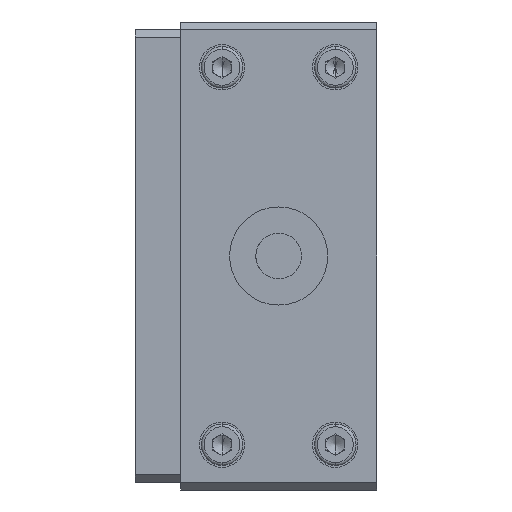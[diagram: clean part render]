
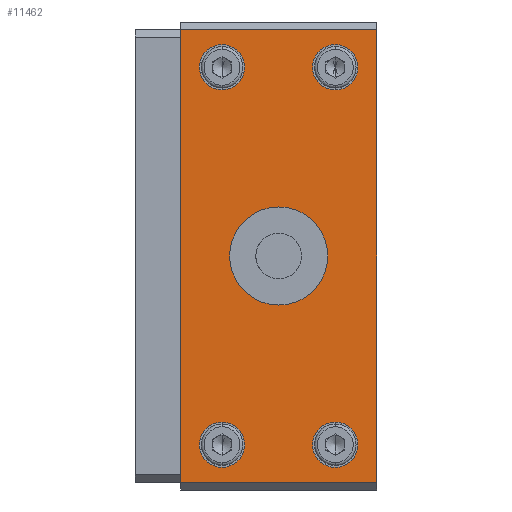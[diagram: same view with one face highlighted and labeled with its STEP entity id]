
A CAD part, left-side view. The second image highlights one B-rep face of the part: STEP entity #11462.
In plain terms, the highlighted planar face has unit normal (-1, 0, 0).
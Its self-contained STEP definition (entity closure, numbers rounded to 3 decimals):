
#58 = VERTEX_POINT ( 'NONE', #12912 ) ;
#627 = DIRECTION ( 'NONE',  ( 0., 0., 1. ) ) ;
#746 = LINE ( 'NONE', #11611, #24152 ) ;
#975 = DIRECTION ( 'NONE',  ( 0., 0., -1. ) ) ;
#1039 = CARTESIAN_POINT ( 'NONE',  ( -30.046, 248.764, 143.056 ) ) ;
#1368 = CARTESIAN_POINT ( 'NONE',  ( -30.046, 233.764, 143.056 ) ) ;
#1476 = VERTEX_POINT ( 'NONE', #26884 ) ;
#1626 = ORIENTED_EDGE ( 'NONE', *, *, #8819, .F. ) ;
#1714 = CARTESIAN_POINT ( 'NONE',  ( -30.046, 248.764, 187.056 ) ) ;
#2244 = AXIS2_PLACEMENT_3D ( 'NONE', #22825, #25025, #20923 ) ;
#2533 = DIRECTION ( 'NONE',  ( 1., 0., 0. ) ) ;
#2681 = ORIENTED_EDGE ( 'NONE', *, *, #8696, .F. ) ;
#2795 = DIRECTION ( 'NONE',  ( 0., 0., -1. ) ) ;
#2966 = CARTESIAN_POINT ( 'NONE',  ( -30.046, 248.764, 140.056 ) ) ;
#3433 = VERTEX_POINT ( 'NONE', #6625 ) ;
#3525 = CARTESIAN_POINT ( 'NONE',  ( -30.046, 248.764, 190.056 ) ) ;
#3682 = VERTEX_POINT ( 'NONE', #1039 ) ;
#3839 = CIRCLE ( 'NONE', #7591, 3. ) ;
#3905 = ORIENTED_EDGE ( 'NONE', *, *, #24263, .F. ) ;
#4212 = CARTESIAN_POINT ( 'NONE',  ( -30.046, 233.764, 140.056 ) ) ;
#4600 = AXIS2_PLACEMENT_3D ( 'NONE', #25402, #2533, #16172 ) ;
#4719 = VERTEX_POINT ( 'NONE', #5147 ) ;
#5147 = CARTESIAN_POINT ( 'NONE',  ( -30.046, 228.264, 195.056 ) ) ;
#5602 = ORIENTED_EDGE ( 'NONE', *, *, #22214, .F. ) ;
#5697 = DIRECTION ( 'NONE',  ( 0., 0., 1. ) ) ;
#5909 = AXIS2_PLACEMENT_3D ( 'NONE', #13420, #9059, #15482 ) ;
#6143 = CIRCLE ( 'NONE', #12691, 6.5 ) ;
#6211 = ORIENTED_EDGE ( 'NONE', *, *, #14283, .T. ) ;
#6625 = CARTESIAN_POINT ( 'NONE',  ( -30.046, 241.264, 171.556 ) ) ;
#6830 = VERTEX_POINT ( 'NONE', #7752 ) ;
#6941 = FACE_BOUND ( 'NONE', #15379, .T. ) ;
#7232 = EDGE_LOOP ( 'NONE', ( #6211, #13967 ) ) ;
#7401 = CIRCLE ( 'NONE', #2244, 3. ) ;
#7417 = VECTOR ( 'NONE', #16309, 1000. ) ;
#7591 = AXIS2_PLACEMENT_3D ( 'NONE', #19283, #21771, #14424 ) ;
#7752 = CARTESIAN_POINT ( 'NONE',  ( -30.046, 248.764, 193.056 ) ) ;
#7760 = CARTESIAN_POINT ( 'NONE',  ( -30.046, 248.764, 140.056 ) ) ;
#8132 = CARTESIAN_POINT ( 'NONE',  ( -30.046, 228.264, 135.056 ) ) ;
#8174 = DIRECTION ( 'NONE',  ( 0., -1., 0. ) ) ;
#8490 = CARTESIAN_POINT ( 'NONE',  ( -30.046, 254.264, 195.056 ) ) ;
#8696 = EDGE_CURVE ( 'NONE', #1476, #26679, #20360, .T. ) ;
#8819 = EDGE_CURVE ( 'NONE', #20770, #58, #7401, .T. ) ;
#8866 = EDGE_CURVE ( 'NONE', #3433, #9330, #17278, .T. ) ;
#9059 = DIRECTION ( 'NONE',  ( -1., 0., 0. ) ) ;
#9215 = ORIENTED_EDGE ( 'NONE', *, *, #28760, .F. ) ;
#9292 = VECTOR ( 'NONE', #22256, 1000. ) ;
#9320 = CARTESIAN_POINT ( 'NONE',  ( -30.046, 241.264, 158.556 ) ) ;
#9330 = VERTEX_POINT ( 'NONE', #9320 ) ;
#9588 = LINE ( 'NONE', #27455, #7417 ) ;
#9646 = CARTESIAN_POINT ( 'NONE',  ( -30.046, 241.264, 165.056 ) ) ;
#9765 = EDGE_CURVE ( 'NONE', #4719, #26268, #746, .T. ) ;
#9787 = DIRECTION ( 'NONE',  ( 1., 0., 0. ) ) ;
#10134 = DIRECTION ( 'NONE',  ( 1., 0., 0. ) ) ;
#10475 = ORIENTED_EDGE ( 'NONE', *, *, #9765, .F. ) ;
#11013 = EDGE_CURVE ( 'NONE', #4719, #26679, #9588, .T. ) ;
#11314 = CIRCLE ( 'NONE', #11769, 3. ) ;
#11462 = ADVANCED_FACE ( 'NONE', ( #14255, #6941, #18667, #27172, #22905, #15878 ), #24970, .F. ) ;
#11611 = CARTESIAN_POINT ( 'NONE',  ( -30.046, 228.264, 196.056 ) ) ;
#11769 = AXIS2_PLACEMENT_3D ( 'NONE', #3525, #16882, #12323 ) ;
#11924 = DIRECTION ( 'NONE',  ( -1., 0., 0. ) ) ;
#11953 = ORIENTED_EDGE ( 'NONE', *, *, #18270, .F. ) ;
#12064 = EDGE_CURVE ( 'NONE', #58, #20770, #14805, .T. ) ;
#12289 = DIRECTION ( 'NONE',  ( -1., 0., 0. ) ) ;
#12323 = DIRECTION ( 'NONE',  ( 0., 0., 1. ) ) ;
#12691 = AXIS2_PLACEMENT_3D ( 'NONE', #14670, #10134, #18941 ) ;
#12795 = CIRCLE ( 'NONE', #20299, 3. ) ;
#12871 = DIRECTION ( 'NONE',  ( -1., 0., 0. ) ) ;
#12912 = CARTESIAN_POINT ( 'NONE',  ( -30.046, 233.764, 193.056 ) ) ;
#13104 = EDGE_CURVE ( 'NONE', #6830, #21134, #11314, .T. ) ;
#13420 = CARTESIAN_POINT ( 'NONE',  ( -30.046, 233.764, 190.056 ) ) ;
#13967 = ORIENTED_EDGE ( 'NONE', *, *, #8866, .T. ) ;
#14202 = ORIENTED_EDGE ( 'NONE', *, *, #13104, .F. ) ;
#14255 = FACE_BOUND ( 'NONE', #26613, .T. ) ;
#14262 = EDGE_LOOP ( 'NONE', ( #10475, #17824, #2681, #28222 ) ) ;
#14283 = EDGE_CURVE ( 'NONE', #9330, #3433, #6143, .T. ) ;
#14424 = DIRECTION ( 'NONE',  ( 0., 0., 1. ) ) ;
#14670 = CARTESIAN_POINT ( 'NONE',  ( -30.046, 241.264, 165.056 ) ) ;
#14805 = CIRCLE ( 'NONE', #5909, 3. ) ;
#15379 = EDGE_LOOP ( 'NONE', ( #11953, #28812 ) ) ;
#15482 = DIRECTION ( 'NONE',  ( 0., 0., 1. ) ) ;
#15600 = ORIENTED_EDGE ( 'NONE', *, *, #12064, .F. ) ;
#15658 = CIRCLE ( 'NONE', #23144, 3. ) ;
#15878 = FACE_OUTER_BOUND ( 'NONE', #14262, .T. ) ;
#16172 = DIRECTION ( 'NONE',  ( 0., 0., -1. ) ) ;
#16309 = DIRECTION ( 'NONE',  ( 0., 1., 0. ) ) ;
#16850 = CIRCLE ( 'NONE', #22908, 3. ) ;
#16882 = DIRECTION ( 'NONE',  ( -1., 0., 0. ) ) ;
#17063 = AXIS2_PLACEMENT_3D ( 'NONE', #7760, #12289, #5697 ) ;
#17278 = CIRCLE ( 'NONE', #23343, 6.5 ) ;
#17289 = DIRECTION ( 'NONE',  ( 0., 0., 1. ) ) ;
#17398 = LINE ( 'NONE', #21647, #18476 ) ;
#17824 = ORIENTED_EDGE ( 'NONE', *, *, #11013, .T. ) ;
#18270 = EDGE_CURVE ( 'NONE', #27539, #19166, #15658, .T. ) ;
#18476 = VECTOR ( 'NONE', #8174, 1000. ) ;
#18501 = EDGE_CURVE ( 'NONE', #1476, #26268, #17398, .T. ) ;
#18667 = FACE_BOUND ( 'NONE', #25483, .T. ) ;
#18931 = CARTESIAN_POINT ( 'NONE',  ( -30.046, 233.764, 140.056 ) ) ;
#18941 = DIRECTION ( 'NONE',  ( 0., 0., -1. ) ) ;
#19166 = VERTEX_POINT ( 'NONE', #27897 ) ;
#19283 = CARTESIAN_POINT ( 'NONE',  ( -30.046, 248.764, 190.056 ) ) ;
#19502 = DIRECTION ( 'NONE',  ( 0., 0., 1. ) ) ;
#20299 = AXIS2_PLACEMENT_3D ( 'NONE', #2966, #11924, #627 ) ;
#20360 = LINE ( 'NONE', #24450, #9292 ) ;
#20770 = VERTEX_POINT ( 'NONE', #28587 ) ;
#20923 = DIRECTION ( 'NONE',  ( 0., 0., 1. ) ) ;
#21134 = VERTEX_POINT ( 'NONE', #1714 ) ;
#21417 = CARTESIAN_POINT ( 'NONE',  ( -30.046, 248.764, 137.056 ) ) ;
#21647 = CARTESIAN_POINT ( 'NONE',  ( -30.046, 228.264, 135.056 ) ) ;
#21771 = DIRECTION ( 'NONE',  ( -1., 0., 0. ) ) ;
#22214 = EDGE_CURVE ( 'NONE', #3682, #22738, #12795, .T. ) ;
#22256 = DIRECTION ( 'NONE',  ( 0., 0., 1. ) ) ;
#22738 = VERTEX_POINT ( 'NONE', #21417 ) ;
#22825 = CARTESIAN_POINT ( 'NONE',  ( -30.046, 233.764, 190.056 ) ) ;
#22905 = FACE_BOUND ( 'NONE', #7232, .T. ) ;
#22908 = AXIS2_PLACEMENT_3D ( 'NONE', #4212, #12871, #17289 ) ;
#23004 = EDGE_LOOP ( 'NONE', ( #15600, #1626 ) ) ;
#23144 = AXIS2_PLACEMENT_3D ( 'NONE', #18931, #23609, #19502 ) ;
#23343 = AXIS2_PLACEMENT_3D ( 'NONE', #9646, #9787, #975 ) ;
#23609 = DIRECTION ( 'NONE',  ( -1., 0., 0. ) ) ;
#24152 = VECTOR ( 'NONE', #2795, 1000. ) ;
#24263 = EDGE_CURVE ( 'NONE', #22738, #3682, #26874, .T. ) ;
#24450 = CARTESIAN_POINT ( 'NONE',  ( -30.046, 254.264, 134.056 ) ) ;
#24970 = PLANE ( 'NONE',  #4600 ) ;
#25025 = DIRECTION ( 'NONE',  ( -1., 0., 0. ) ) ;
#25402 = CARTESIAN_POINT ( 'NONE',  ( -30.046, 228.264, 165.056 ) ) ;
#25483 = EDGE_LOOP ( 'NONE', ( #14202, #9215 ) ) ;
#25623 = EDGE_CURVE ( 'NONE', #19166, #27539, #16850, .T. ) ;
#26268 = VERTEX_POINT ( 'NONE', #8132 ) ;
#26613 = EDGE_LOOP ( 'NONE', ( #5602, #3905 ) ) ;
#26679 = VERTEX_POINT ( 'NONE', #8490 ) ;
#26874 = CIRCLE ( 'NONE', #17063, 3. ) ;
#26884 = CARTESIAN_POINT ( 'NONE',  ( -30.046, 254.264, 135.056 ) ) ;
#27172 = FACE_BOUND ( 'NONE', #23004, .T. ) ;
#27455 = CARTESIAN_POINT ( 'NONE',  ( -30.046, 254.264, 195.056 ) ) ;
#27539 = VERTEX_POINT ( 'NONE', #1368 ) ;
#27897 = CARTESIAN_POINT ( 'NONE',  ( -30.046, 233.764, 137.056 ) ) ;
#28222 = ORIENTED_EDGE ( 'NONE', *, *, #18501, .T. ) ;
#28587 = CARTESIAN_POINT ( 'NONE',  ( -30.046, 233.764, 187.056 ) ) ;
#28760 = EDGE_CURVE ( 'NONE', #21134, #6830, #3839, .T. ) ;
#28812 = ORIENTED_EDGE ( 'NONE', *, *, #25623, .F. ) ;
